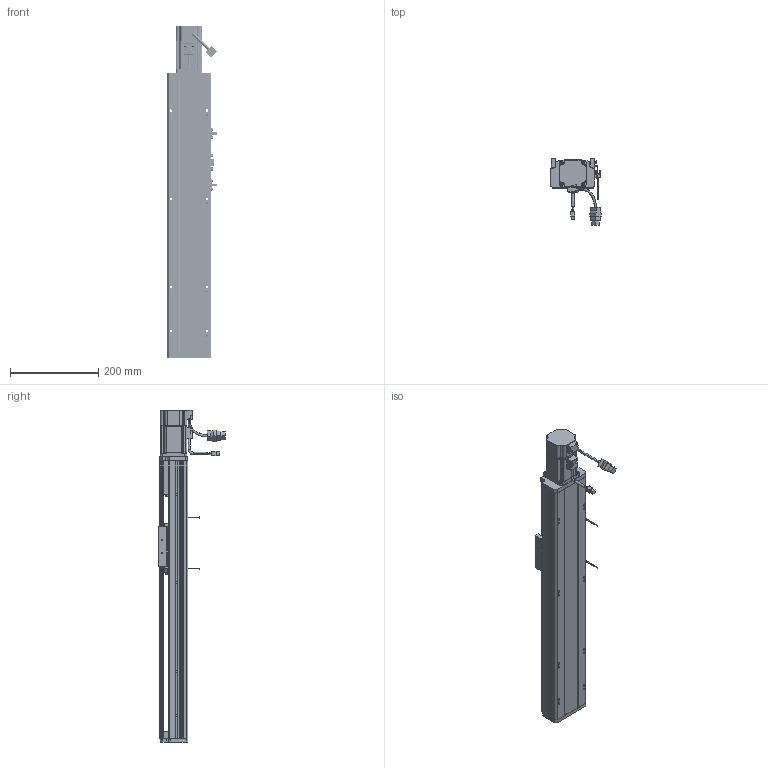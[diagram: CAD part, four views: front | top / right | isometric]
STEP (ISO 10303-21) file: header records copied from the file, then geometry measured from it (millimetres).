
FILE_DESCRIPTION (( 'STEP AP214' ), '1' );
FILE_NAME ('CTH10-400.STEP', '2019-11-18T08:32:26', ( '微软用户' ), ( '微软中国' ), 'SwSTEP 2.0', 'SolidWorks 2017', '' );
FILE_SCHEMA (( 'AUTOMOTIVE_DESIGN' ));
Length unit declared in the file: millimetre
Products named in the file (34): CTH10-400; CTH10-底座_默认<按加工>; CTH10-移动座_默认<按加工>; CTH10-蹟簽蟀諉啣; CTH10-盓傅釱; CTH10-傷啣; CTH10-侜督萇儂啣; SFH1605-288; SFH1605; CTH10-盖板_默认<按加工>; 怢湛200W侜督萇儂ECMA-CX0602ES; CTH10-粣創釱; BEARING_BaseModel20190604090351; 7001-DF; 粣創揤啣; COL12B-粣遠; 坶踡蹟譫; M4-L8囀鞠褒蹟佪; M3-L10囀鞠褒蹟佪; CTH10粣創釱蚾饜极; M5-L20囀鞠褒蹟佪; 遣喳蝶15x12x8; 6000Z粣創; M4-L6半圆头内六角螺丝; EE-SX672; M3-L8囀鞠褒蹟佪; 100耀郪-覜茼んえ; MGN12C; MGN12C-R1; MGN12C-2R420-Z0CHC; 噩砃M3-L10囀鞠褒蹟佪; 噩砃MGN12C; 噩砃MGN12C-R1; 噩砃MGN12C-2R420-Z0CHC
Assembly tree (100 placements, depth 4):
  CTH10-400
    CTH10-底座_默认<按加工>
    CTH10-移动座_默认<按加工>
    CTH10-蹟簽蟀諉啣
    CTH10-盓傅釱
    CTH10-傷啣
    CTH10-侜督萇儂啣
    SFH1605-288
    SFH1605
    CTH10-盖板_默认<按加工>
    怢湛200W侜督萇儂ECMA-CX0602ES
    CTH10粣創釱蚾饜极
      CTH10-粣創釱
      7001-DF
        BEARING_BaseModel20190604090351  x2
      粣創揤啣
      COL12B-粣遠  x2
      坶踡蹟譫
      M4-L8囀鞠褒蹟佪  x4
      M3-L10囀鞠褒蹟佪  x6
    M3-L10囀鞠褒蹟佪  x19
    M5-L20囀鞠褒蹟佪  x4
    遣喳蝶15x12x8  x3
    6000Z粣創
    M4-L6半圆头内六角螺丝  x4
    M4-L8囀鞠褒蹟佪  x8
    EE-SX672  x2
    M3-L8囀鞠褒蹟佪  x4
    100耀郪-覜茼んえ
    MGN12C-2R420-Z0CHC
      MGN12C
      MGN12C-R1  x2
      M3-L10囀鞠褒蹟佪  x8
    噩砃M3-L10囀鞠褒蹟佪
    噩砃MGN12C-2R420-Z0CHC
      噩砃MGN12C
      噩砃MGN12C-R1  x2
      噩砃M3-L10囀鞠褒蹟佪  x8
Bounding box: 114.24 x 151.37 x 752 mm (x, y, z)
Volume: 2068005.6 mm3; surface area: 744009.8 mm2
Topology: 96 solids, 105 shells, 4481 faces, 11242 edges, 7000 vertices
Faces by surface type: plane 2298, cylinder 1296, cone 601, bspline 241, torus 33, sphere 12
Entity records: 91800 total; most frequent: CARTESIAN_POINT 28070, ORIENTED_EDGE 12988, DIRECTION 12355, EDGE_CURVE 6494, AXIS2_PLACEMENT_3D 4354, VERTEX_POINT 4214, VECTOR 3647, LINE 3647
